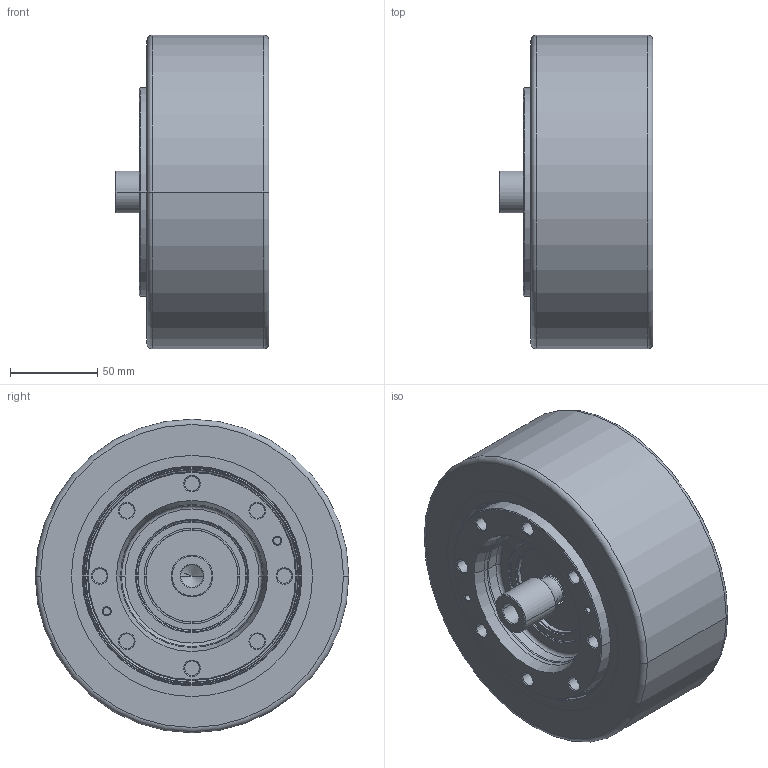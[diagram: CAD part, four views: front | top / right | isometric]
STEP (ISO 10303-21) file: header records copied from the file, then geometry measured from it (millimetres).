
FILE_DESCRIPTION((''),'2;1');
FILE_NAME('IMS700_DRIVE_LN_ASM','2023-07-27T09:19:43',('mhummel'),(''),'CREO PARAMETRIC BY PTC INC, 2020184','CREO PARAMETRIC BY PTC INC, 2020184','');
FILE_SCHEMA(('AUTOMOTIVE_DESIGN { 1 0 10303 214 1 1 1 1 }'));
Length unit declared in the file: millimetre
Products named in the file (11): IMS700_DRIVE_LN_RING_GEAR; IMS700_DRIVE_LN_WHEEL_CARRIER; IMS700_DRIVE_LN_BASE_WHEEL_1; IMS700_DRIVE_LN_BASE_WHEEL_2; IMS700_DRIVE_LN_WHEEL_ASM; IMS700_DRIVE_LN_SCREW; IMS700_DRIVE_LN_THRUST_WASHER; IMS700_DRIVE_LN_SEAL_RING; IMS700_DRIVE_LN_MO_PINION_LONG; IMS700_DRIVE_LN_MO_PINION_SHORT; IMS700_DRIVE_LN_ASM
Assembly tree (15 placements, depth 3):
  IMS700_DRIVE_LN_ASM
    IMS700_DRIVE_LN_RING_GEAR
    IMS700_DRIVE_LN_WHEEL_CARRIER
    IMS700_DRIVE_LN_WHEEL_ASM
      IMS700_DRIVE_LN_BASE_WHEEL_1
      IMS700_DRIVE_LN_BASE_WHEEL_2
    IMS700_DRIVE_LN_SCREW  x6
    IMS700_DRIVE_LN_THRUST_WASHER
    IMS700_DRIVE_LN_SEAL_RING
    IMS700_DRIVE_LN_MO_PINION_LONG
    IMS700_DRIVE_LN_MO_PINION_SHORT
Bounding box: 88.3 x 180 x 180 mm (x, y, z)
Volume: 1536157.4 mm3; surface area: 297890.4 mm2
Topology: 14 solids, 14 shells, 456 faces, 990 edges, 597 vertices
Faces by surface type: cylinder 166, cone 138, plane 106, torus 46
Entity records: 12142 total; most frequent: DIRECTION 1898, CARTESIAN_POINT 1547, ORIENTED_EDGE 1432, AXIS2_PLACEMENT_3D 813, PRESENTATION_STYLE_ASSIGNMENT 725, STYLED_ITEM 725, CURVE_STYLE 716, EDGE_CURVE 716
